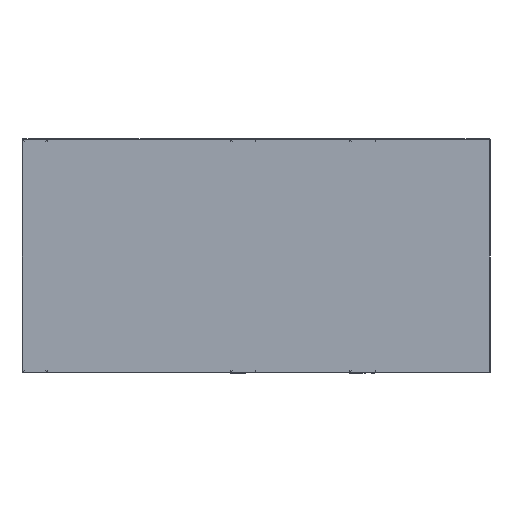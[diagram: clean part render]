
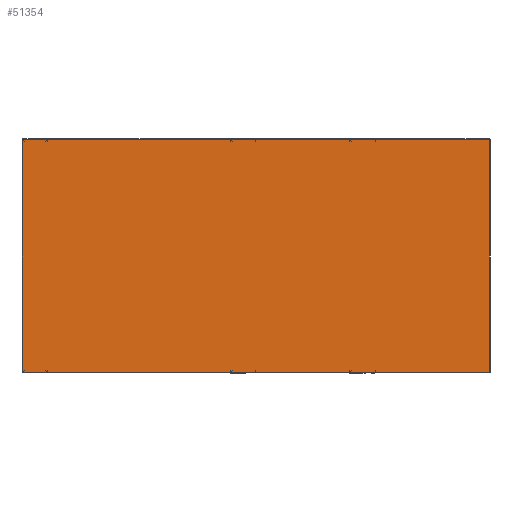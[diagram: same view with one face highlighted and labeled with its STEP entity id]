
A CAD part, left-side view. The second image highlights one B-rep face of the part: STEP entity #51354.
In plain terms, the highlighted planar face has unit normal (-1, 0, 0).
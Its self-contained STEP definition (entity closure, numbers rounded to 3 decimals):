
#861 = CARTESIAN_POINT ( 'NONE',  ( -650., 0., -198.586 ) ) ;
#1072 = EDGE_CURVE ( 'NONE', #52522, #17675, #9361, .T. ) ;
#2563 = EDGE_CURVE ( 'NONE', #22326, #17675, #9467, .T. ) ;
#9300 = CARTESIAN_POINT ( 'NONE',  ( -650., -798.586, 0. ) ) ;
#9361 = LINE ( 'NONE', #10424, #22955 ) ;
#9467 = LINE ( 'NONE', #17096, #40062 ) ;
#10057 = EDGE_CURVE ( 'NONE', #24391, #22326, #46533, .T. ) ;
#10424 = CARTESIAN_POINT ( 'NONE',  ( -650., -1.414, -200. ) ) ;
#17096 = CARTESIAN_POINT ( 'NONE',  ( -650., 0., 198.586 ) ) ;
#17675 = VERTEX_POINT ( 'NONE', #37652 ) ;
#22326 = VERTEX_POINT ( 'NONE', #30706 ) ;
#22916 = DIRECTION ( 'NONE',  ( 0., 0., 1. ) ) ;
#22955 = VECTOR ( 'NONE', #22916, 1000. ) ;
#24391 = VERTEX_POINT ( 'NONE', #25326 ) ;
#24806 = LINE ( 'NONE', #861, #29027 ) ;
#25042 = PLANE ( 'NONE',  #41394 ) ;
#25326 = CARTESIAN_POINT ( 'NONE',  ( -650., -798.586, -198.586 ) ) ;
#28588 = FACE_OUTER_BOUND ( 'NONE', #44963, .T. ) ;
#29027 = VECTOR ( 'NONE', #45186, 1000. ) ;
#29599 = DIRECTION ( 'NONE',  ( 0., 1., 0. ) ) ;
#30706 = CARTESIAN_POINT ( 'NONE',  ( -650., -798.586, 198.586 ) ) ;
#32639 = CARTESIAN_POINT ( 'NONE',  ( -650., 0., 0. ) ) ;
#33273 = VECTOR ( 'NONE', #42457, 1000. ) ;
#37652 = CARTESIAN_POINT ( 'NONE',  ( -650., -1.414, 198.586 ) ) ;
#38066 = CARTESIAN_POINT ( 'NONE',  ( -650., -1.414, -198.586 ) ) ;
#40062 = VECTOR ( 'NONE', #29599, 1000. ) ;
#41394 = AXIS2_PLACEMENT_3D ( 'NONE', #32639, #41612, #44867 ) ;
#41612 = DIRECTION ( 'NONE',  ( 1., 0., 0. ) ) ;
#41922 = ORIENTED_EDGE ( 'NONE', *, *, #10057, .T. ) ;
#42457 = DIRECTION ( 'NONE',  ( 0., 0., 1. ) ) ;
#44309 = ORIENTED_EDGE ( 'NONE', *, *, #1072, .F. ) ;
#44867 = DIRECTION ( 'NONE',  ( 0., 0., -1. ) ) ;
#44963 = EDGE_LOOP ( 'NONE', ( #45625, #44309, #46345, #41922 ) ) ;
#45186 = DIRECTION ( 'NONE',  ( 0., -1., 0. ) ) ;
#45625 = ORIENTED_EDGE ( 'NONE', *, *, #2563, .T. ) ;
#46345 = ORIENTED_EDGE ( 'NONE', *, *, #48961, .T. ) ;
#46533 = LINE ( 'NONE', #9300, #33273 ) ;
#48961 = EDGE_CURVE ( 'NONE', #52522, #24391, #24806, .T. ) ;
#51354 = ADVANCED_FACE ( 'NONE', ( #28588 ), #25042, .F. ) ;
#52522 = VERTEX_POINT ( 'NONE', #38066 ) ;
